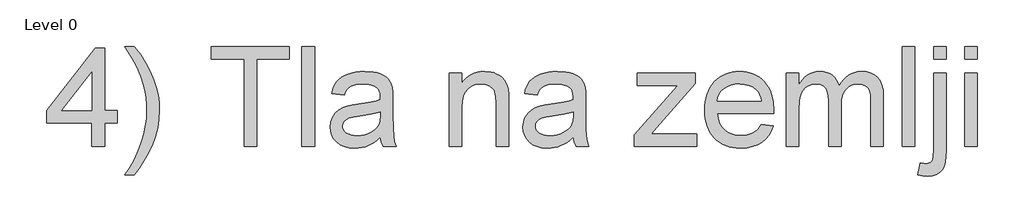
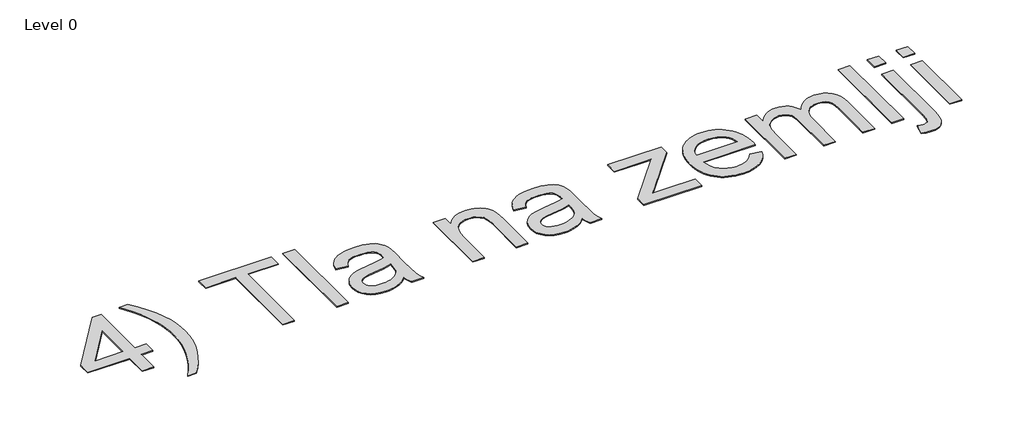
# One storey, part 4 of 11: 1 proxy.
"""IFC4 building model written with IfcOpenShell, lengths in millimetres."""

from ifc_helpers import new_model, si_unit, origin, origin_with_axes, place, context, project, spatial, polyline, outline, extrude, element, save

model = new_model("IFC4")

# Units and contexts
model_context = context("Model", 3, world=origin())
ifc_project = project(units=[si_unit("LENGTHUNIT", "METRE", prefix="MILLI")], contexts=[model_context])

# Site, building, storey
site = spatial("IfcSite", under=ifc_project)
building = spatial("IfcBuilding", under=site)
storey = spatial("IfcBuildingStorey", under=building, Name="Level 0", Elevation=0.0)

# Proxy
placement = place(None, origin())
element("IfcBuildingElementProxy", 1, Name="1000mm Arial", ObjectType="1000mm Arial", at=placement, inside=storey, context=model_context, shape_type="SweptSolid", body=[
    extrude(outline(polyline([(-8744.4502126, -30418.9210026), (-8744.4502126, -30183.4765257), (-9199.642868, -30183.4765257), (-9199.642868, -30057.906138), (-8713.0576157, -29430.0541996), (-8618.8798249, -29430.0541996), (-8618.8798249, -30057.906138), (-8493.3094373, -30057.906138), (-8493.3094373, -30183.4765257), (-8618.8798249, -30183.4765257), (-8618.8798249, -30418.9210026), (-8744.4502126, -30418.9210026)]), holes=[polyline([(-8744.4502126, -30057.906138), (-8744.4502126, -29669.9132604), (-9045.13243, -30057.906138), (-8744.4502126, -30057.906138)])]), origin_with_axes(), (0.0, 0.0, 1.0), 10.0),
    extrude(outline(polyline([(-8320.6501542, -30701.4543749), (-8414.827945, -30701.4543749), (-8363.3244656, -30621.0644947), (-8318.6881169, -30540.6592862), (-8280.9188987, -30460.2387492), (-8250.0168111, -30379.8028838), (-8225.9818541, -30299.35169), (-8208.8140277, -30218.8851677), (-8198.5133318, -30138.4033171), (-8195.0797665, -30057.906138), (-8197.0571322, -29995.1209442), (-8202.9892294, -29932.581005), (-8212.876058, -29870.2863205), (-8226.7176181, -29808.2368906), (-8256.7000007, -29709.7058296), (-8296.6151972, -29615.2214705), (-8340.3931546, -29534.8392545), (-8414.827945, -29414.3579011), (-8320.6501542, -29414.3579011), (-8258.5087538, -29498.4495938), (-8205.0125804, -29582.7252276), (-8160.1616338, -29667.1848023), (-8123.9559141, -29751.828318), (-8100.1355549, -29825.6346433), (-8083.1210126, -29901.1270944), (-8072.9122873, -29978.3056713), (-8069.5093788, -30057.170374), (-8074.0849111, -30146.902924), (-8087.8115081, -30235.1026323), (-8110.6891696, -30321.769499), (-8142.7178959, -30406.9035241), (-8181.2918559, -30488.5886554), (-8223.805219, -30564.908841), (-8270.2579851, -30635.8640808), (-8320.6501542, -30701.4543749)])), origin_with_axes(), (0.0, 0.0, 1.0), 10.0),
    extrude(outline(polyline([(-7221.9092619, -30418.9210026), (-7221.9092619, -29539.9282888), (-7551.5315296, -29539.9282888), (-7551.5315296, -29414.3579011), (-6766.7166066, -29414.3579011), (-6766.7166066, -29539.9282888), (-7096.3388742, -29539.9282888), (-7096.3388742, -30418.9210026), (-7221.9092619, -30418.9210026)])), origin_with_axes(), (0.0, 0.0, 1.0), 10.0),
    extrude(outline(polyline([(-6641.1462189, -30418.9210026), (-6641.1462189, -29414.3579011), (-6515.5758312, -29414.3579011), (-6515.5758312, -30418.9210026), (-6641.1462189, -30418.9210026)])), origin_with_axes(), (0.0, 0.0, 1.0), 10.0),
    extrude(outline(polyline([(-5856.3312958, -30324.7432118), (-5886.1067448, -30352.6869151), (-5916.3267179, -30376.1853775), (-5946.991215, -30395.2385992), (-5978.1002362, -30409.8465801), (-6010.0063351, -30420.6837705), (-6043.0620652, -30428.4246208), (-6077.2674266, -30433.069131), (-6112.6224191, -30434.6173011), (-6168.5328182, -30430.8924959), (-6217.5607583, -30419.7180803), (-6259.7062393, -30401.0940543), (-6294.9692614, -30375.0204178), (-6322.8133299, -30343.15264), (-6342.7019503, -30307.1461897), (-6354.6351225, -30267.001067), (-6358.6128466, -30222.7172718), (-6352.6041073, -30170.6619695), (-6345.0931833, -30146.4277431), (-6334.5778896, -30123.3891331), (-6306.7721421, -30082.9221137), (-6271.4248137, -30051.2842621), (-6229.8848051, -30027.3719324), (-6183.5010169, -30010.0814786), (-6138.3128451, -30000.4552331), (-6074.853201, -29991.1968695), (-5946.4623846, -29971.3312418), (-5896.8902858, -29960.110841), (-5857.0670598, -29948.0320488), (-5856.3312958, -29920.0730171), (-5858.4926025, -29889.630782), (-5864.9765227, -29864.0323265), (-5875.7830563, -29843.2776506), (-5890.9122034, -29827.3667544), (-5917.0624819, -29811.4865149), (-5948.9149313, -29800.1434867), (-5986.4695516, -29793.3376698), (-6029.7263429, -29791.0690642), (-6069.9481077, -29792.5789132), (-6104.5290152, -29797.1084603), (-6133.4690655, -29804.6577054), (-6156.7682586, -29815.2266485), (-6175.9134507, -29829.6430242), (-6192.3914984, -29848.7345669), (-6206.2024017, -29872.5012766), (-6217.3461604, -29900.9431534), (-6342.9165481, -29885.2468549), (-6333.3592804, -29849.0717921), (-6321.1195399, -29816.5755492), (-6306.1973265, -29787.7581262), (-6288.5926402, -29762.6195232), (-6267.5467244, -29740.6539024), (-6242.3008224, -29721.3554261), (-6212.8549344, -29704.7240942), (-6179.2090603, -29690.7599068), (-6142.0453145, -29679.7081185), (-6102.0458118, -29671.8139841), (-6059.210552, -29667.0775034), (-6013.5395351, -29665.4986765), (-5928.6507647, -29671.0782201), (-5892.8052628, -29678.0526496), (-5861.3590164, -29687.8168509), (-5810.6219579, -29712.9861107), (-5791.0705627, -29727.7090547), (-5775.3972569, -29743.8575415), (-5752.0367502, -29782.0252985), (-5736.8922747, -29829.083537), (-5732.2937498, -29872.4936124), (-5730.7609081, -29938.9576262), (-5730.7609081, -30095.1848468), (-5729.1667528, -30231.2705282), (-5724.3842869, -30313.33887), (-5714.9419823, -30367.2642391), (-5699.3683112, -30418.9210026), (-5824.9386989, -30418.9210026), (-5845.0495813, -30375.2656725), (-5856.3312958, -30324.7432118)]), holes=[polyline([(-5856.3312958, -30073.6024365), (-5940.6989001, -30094.5103965), (-6058.9116478, -30112.1074186), (-6124.0574178, -30121.7336642), (-6166.9463271, -30132.4635557), (-6195.0586429, -30146.3817578), (-6215.8746324, -30165.5729353), (-6228.7505023, -30188.56556), (-6233.0424589, -30213.888104), (-6230.7048754, -30233.4011781), (-6223.6921248, -30251.2281265), (-6212.0042073, -30267.368949), (-6195.6411227, -30281.8236457), (-6174.7561553, -30293.7338253), (-6149.5025892, -30302.2410965), (-6119.8804243, -30307.3454591), (-6085.8896608, -30309.0469134), (-6051.1861259, -30307.1691824), (-6018.4446284, -30301.5359893), (-5987.6651681, -30292.1473342), (-5958.8477452, -30279.0032171), (-5932.8507508, -30263.1919555), (-5910.5325765, -30245.801867), (-5891.893222, -30226.8329517), (-5876.9326876, -30206.2852094), (-5868.2414754, -30187.8911096), (-5862.0334668, -30165.5729353), (-5857.0670598, -30109.1643627), (-5856.3312958, -30073.6024365)])]), origin_with_axes(), (0.0, 0.0, 1.0), 10.0),
    extrude(outline(polyline([(-5165.6941635, -30418.9210026), (-5165.6941635, -29681.1949749), (-5040.1237759, -29681.1949749), (-5040.1237759, -29784.2019336), (-5019.407421, -29756.3808577), (-4996.4991026, -29732.2692586), (-4971.3988206, -29711.8671363), (-4944.1065751, -29695.1744908), (-4914.622366, -29682.191322), (-4882.9461934, -29672.91763), (-4849.0780572, -29667.3534149), (-4813.0179575, -29665.4986765), (-4751.1218118, -29671.4767589), (-4722.1281121, -29678.9493619), (-4694.4373277, -29689.4110062), (-4669.0994553, -29702.3022044), (-4647.1644913, -29717.0634695), (-4628.6324358, -29733.6948013), (-4613.5032888, -29752.1962), (-4590.6639483, -29794.7172273), (-4575.8566979, -29844.5345808), (-4570.890291, -29892.1752992), (-4569.234822, -29965.9356392), (-4569.234822, -30418.9210026), (-4694.8052097, -30418.9210026), (-4694.8052097, -29982.858211), (-4698.422716, -29917.9270388), (-4709.2752349, -29871.7578484), (-4717.8974691, -29854.2911179), (-4729.2941468, -29838.6791257), (-4743.4652678, -29824.9218719), (-4760.4108322, -29813.0193565), (-4800.2953718, -29796.5566373), (-4846.6178464, -29791.0690642), (-4884.7472824, -29794.1500759), (-4920.1635886, -29803.393111), (-4952.8667651, -29818.7981696), (-4982.8568119, -29840.3652515), (-5007.9111087, -29870.5469035), (-5025.8070349, -29911.7956723), (-5036.5445906, -29964.1115576), (-5040.1237759, -30027.4945597), (-5040.1237759, -30418.9210026), (-5165.6941635, -30418.9210026)])), origin_with_axes(), (0.0, 0.0, 1.0), 10.0),
    extrude(outline(polyline([(-3925.6865851, -30324.7432118), (-3955.4620341, -30352.6869151), (-3985.6820072, -30376.1853775), (-4016.3465043, -30395.2385992), (-4047.4555255, -30409.8465801), (-4079.3616244, -30420.6837705), (-4112.4173545, -30428.4246208), (-4146.6227159, -30433.069131), (-4181.9777084, -30434.6173011), (-4237.8881075, -30430.8924959), (-4286.9160476, -30419.7180803), (-4329.0615286, -30401.0940543), (-4364.3245507, -30375.0204178), (-4392.1686192, -30343.15264), (-4412.0572396, -30307.1461897), (-4423.9904118, -30267.001067), (-4427.9681359, -30222.7172718), (-4421.9593966, -30170.6619695), (-4414.4484726, -30146.4277431), (-4403.9331789, -30123.3891331), (-4376.1274314, -30082.9221137), (-4340.780103, -30051.2842621), (-4299.2400944, -30027.3719324), (-4252.8563062, -30010.0814786), (-4207.6681344, -30000.4552331), (-4144.2084903, -29991.1968695), (-4015.817674, -29971.3312418), (-3966.2455751, -29960.110841), (-3926.4223491, -29948.0320488), (-3925.6865851, -29920.0730171), (-3927.8478919, -29889.630782), (-3934.331812, -29864.0323265), (-3945.1383456, -29843.2776506), (-3960.2674927, -29827.3667544), (-3986.4177712, -29811.4865149), (-4018.2702206, -29800.1434867), (-4055.8248409, -29793.3376698), (-4099.0816322, -29791.0690642), (-4139.303397, -29792.5789132), (-4173.8843046, -29797.1084603), (-4202.8243548, -29804.6577054), (-4226.1235479, -29815.2266485), (-4245.26874, -29829.6430242), (-4261.7467877, -29848.7345669), (-4275.557691, -29872.5012766), (-4286.7014497, -29900.9431534), (-4412.2718374, -29885.2468549), (-4402.7145698, -29849.0717921), (-4390.4748292, -29816.5755492), (-4375.5526158, -29787.7581262), (-4357.9479295, -29762.6195232), (-4336.9020137, -29740.6539024), (-4311.6561117, -29721.3554261), (-4282.2102237, -29704.7240942), (-4248.5643496, -29690.7599068), (-4211.4006039, -29679.7081185), (-4171.4011011, -29671.8139841), (-4128.5658413, -29667.0775034), (-4082.8948244, -29665.4986765), (-3998.006054, -29671.0782201), (-3962.1605521, -29678.0526496), (-3930.7143057, -29687.8168509), (-3879.9772472, -29712.9861107), (-3860.425852, -29727.7090547), (-3844.7525462, -29743.8575415), (-3821.3920395, -29782.0252985), (-3806.247564, -29829.083537), (-3801.6490391, -29872.4936124), (-3800.1161975, -29938.9576262), (-3800.1161975, -30095.1848468), (-3798.5220421, -30231.2705282), (-3793.7395762, -30313.33887), (-3784.2972717, -30367.2642391), (-3768.7236005, -30418.9210026), (-3894.2939882, -30418.9210026), (-3914.4048706, -30375.2656725), (-3925.6865851, -30324.7432118)]), holes=[polyline([(-3925.6865851, -30073.6024365), (-4010.0541894, -30094.5103965), (-4128.2669372, -30112.1074186), (-4193.4127071, -30121.7336642), (-4236.3016164, -30132.4635557), (-4264.4139322, -30146.3817578), (-4285.2299218, -30165.5729353), (-4298.1057916, -30188.56556), (-4302.3977482, -30213.888104), (-4300.0601647, -30233.4011781), (-4293.0474142, -30251.2281265), (-4281.3594966, -30267.368949), (-4264.996412, -30281.8236457), (-4244.1114446, -30293.7338253), (-4218.8578785, -30302.2410965), (-4189.2357136, -30307.3454591), (-4155.2449501, -30309.0469134), (-4120.5414153, -30307.1691824), (-4087.7999177, -30301.5359893), (-4057.0204574, -30292.1473342), (-4028.2030345, -30279.0032171), (-4002.2060401, -30263.1919555), (-3979.8878658, -30245.801867), (-3961.2485113, -30226.8329517), (-3946.2879769, -30206.2852094), (-3937.5967647, -30187.8911096), (-3931.3887561, -30165.5729353), (-3926.4223491, -30109.1643627), (-3925.6865851, -30073.6024365)])]), origin_with_axes(), (0.0, 0.0, 1.0), 10.0),
    extrude(outline(polyline([(-3313.5309452, -30418.9210026), (-3313.5309452, -30300.7082548), (-2880.1659548, -29806.7653626), (-3008.4341438, -29806.7653626), (-3282.1383482, -29806.7653626), (-3282.1383482, -29681.1949749), (-2701.3753052, -29681.1949749), (-2701.3753052, -29787.8807535), (-3085.6893628, -30226.1508371), (-3144.550482, -30293.3506149), (-2999.3597213, -30293.3506149), (-2685.6790067, -30293.3506149), (-2685.6790067, -30418.9210026), (-3313.5309452, -30418.9210026)])), origin_with_axes(), (0.0, 0.0, 1.0), 10.0),
    extrude(outline(polyline([(-2043.6022978, -30199.1728241), (-1920.4844568, -30214.8691226), (-1939.3614016, -30264.1806384), (-1964.844894, -30307.6366991), (-1996.9349339, -30345.2373047), (-2035.6315213, -30376.9824552), (-2080.5361173, -30402.1977002), (-2131.2501832, -30420.2085896), (-2187.7737189, -30431.0151232), (-2250.1067244, -30434.6173011), (-2290.1253877, -30433.0633828), (-2328.0210653, -30428.4016282), (-2363.7937573, -30420.6320371), (-2397.4434635, -30409.7546096), (-2428.9701841, -30395.7693456), (-2458.373919, -30378.6762452), (-2485.6546682, -30358.4753083), (-2510.8124317, -30335.166535), (-2533.4026855, -30309.0526615), (-2552.9809054, -30280.436424), (-2569.5470915, -30249.3178226), (-2583.1012437, -30215.6968571), (-2593.6433622, -30179.5735276), (-2601.1734468, -30140.9478342), (-2605.6914975, -30099.8197768), (-2607.1975144, -30056.1893554), (-2605.6761691, -30011.0739936), (-2601.1121331, -29968.5567984), (-2593.5054064, -29928.6377698), (-2582.8559891, -29891.3169079), (-2569.1638811, -29856.5942125), (-2552.4290824, -29824.4696836), (-2532.651593, -29794.9433214), (-2509.831413, -29768.0151258), (-2484.5855111, -29743.987833), (-2457.5308561, -29723.1641792), (-2428.6674479, -29705.5441645), (-2397.9952865, -29691.1277888), (-2365.514372, -29679.9150522), (-2331.2247044, -29671.9059546), (-2295.1262836, -29667.100496), (-2257.2191097, -29665.4986765), (-2220.5516214, -29667.0966639), (-2185.5970837, -29671.8906261), (-2152.3554966, -29679.8805632), (-2120.82686, -29691.0664751), (-2091.0111739, -29705.4483619), (-2062.9084384, -29723.0262235), (-2036.5186534, -29743.8000599), (-2011.8418189, -29767.7698711), (-1989.5102322, -29794.6367531), (-1970.1561903, -29824.1018017), (-1953.7796934, -29856.1650168), (-1940.3807413, -29890.8263985), (-1929.9593342, -29928.0859468), (-1922.5154719, -29967.9436618), (-1916.5603821, -30055.4535914), (-1917.2961461, -30089.2987349), (-2481.6271267, -30089.2987349), (-2474.3537931, -30139.4073283), (-2459.8914322, -30183.2925847), (-2438.2400439, -30220.9545039), (-2409.3996284, -30252.3930861), (-2374.9643408, -30277.1791355), (-2336.5283365, -30294.8834566), (-2294.0916155, -30305.5060492), (-2247.6541778, -30309.0469134), (-2212.9199861, -30307.4067728), (-2180.822282, -30302.4863511), (-2151.3610656, -30294.2856483), (-2124.5363368, -30282.8046644), (-2100.3480956, -30267.736831), (-2078.796342, -30248.7755798), (-2059.8810761, -30225.9209109), (-2043.6022978, -30199.1728241)]), holes=[polyline([(-2481.6271267, -29963.7283472), (-2042.1307698, -29963.7283472), (-2048.5840332, -29928.1970779), (-2059.1146553, -29897.3869608), (-2073.7226362, -29871.2979959), (-2092.4079758, -29849.9301834), (-2126.6516582, -29824.1784437), (-2165.6164929, -29805.784344), (-2209.3024798, -29794.7478841), (-2257.709619, -29791.0690642), (-2301.8631226, -29794.0044559), (-2342.3531347, -29802.8106312), (-2379.1796553, -29817.4875899), (-2412.3426843, -29838.0353322), (-2440.1714244, -29863.5034962), (-2460.9950782, -29892.94172), (-2474.8136456, -29926.3500037), (-2481.6271267, -29963.7283472)])]), origin_with_axes(), (0.0, 0.0, 1.0), 10.0),
    extrude(outline(polyline([(-1790.9899945, -30418.9210026), (-1790.9899945, -29681.1949749), (-1665.4196068, -29681.1949749), (-1665.4196068, -29802.5960333), (-1647.8838983, -29773.2037948), (-1627.6503886, -29746.8312542), (-1604.7190776, -29723.4784118), (-1579.0899652, -29703.1452673), (-1551.1769189, -29686.6748838), (-1521.3938057, -29674.9103242), (-1489.7406257, -29667.8515884), (-1456.2173789, -29665.4986765), (-1419.5671351, -29667.8975737), (-1386.3811134, -29675.0942652), (-1356.6593139, -29687.0887511), (-1330.4017365, -29703.8810313), (-1307.6850233, -29724.995925), (-1288.5858164, -29749.9582512), (-1273.1041158, -29778.76801), (-1261.2399214, -29811.4252012), (-1239.1593375, -29777.223672), (-1215.4692698, -29747.5823467), (-1190.1697185, -29722.5012252), (-1163.2606834, -29701.9803077), (-1134.7421645, -29686.019594), (-1104.614162, -29674.6190843), (-1072.8766757, -29667.7787784), (-1039.5297056, -29665.4986765), (-989.2601638, -29669.2924596), (-945.1373171, -29680.6738088), (-907.1611653, -29699.6427242), (-875.3317085, -29726.1992057), (-850.1701128, -29760.6498217), (-832.1975445, -29803.3011405), (-821.4140035, -29854.1531621), (-817.8194899, -29913.2058866), (-817.8194899, -30418.9210026), (-943.3898776, -30418.9210026), (-943.3898776, -29967.1619125), (-946.3022767, -29904.5300028), (-955.0394741, -29862.3155439), (-971.4102229, -29833.4061504), (-997.2232762, -29810.6894372), (-1030.4246263, -29795.9741574), (-1068.9602653, -29791.0690642), (-1104.5451841, -29794.2113895), (-1136.9877775, -29803.6383657), (-1166.2880456, -29819.3499925), (-1192.4459883, -29841.3462702), (-1213.9594208, -29870.270992), (-1229.3261583, -29906.7679516), (-1238.5462008, -29950.837149), (-1241.6195483, -30002.4785841), (-1241.6195483, -30418.9210026), (-1367.189936, -30418.9210026), (-1367.189936, -29953.1823967), (-1369.0063534, -29915.137267), (-1374.4556054, -29882.1811716), (-1383.5376922, -29854.3141105), (-1396.2526136, -29831.5360836), (-1413.1062075, -29813.8317626), (-1434.6043116, -29801.185819), (-1460.7469259, -29793.5982529), (-1491.5340504, -29791.0690642), (-1516.1974725, -29792.75519), (-1539.9105328, -29797.8135674), (-1562.6732312, -29806.2441965), (-1584.4855678, -29818.0470771), (-1604.3511956, -29833.0995821), (-1621.2737674, -29851.279084), (-1635.2532832, -29872.5855829), (-1646.289743, -29897.0190788), (-1654.6590584, -29925.882487), (-1660.6371408, -29960.4787229), (-1665.4196068, -30046.8696781), (-1665.4196068, -30418.9210026), (-1790.9899945, -30418.9210026)])), origin_with_axes(), (0.0, 0.0, 1.0), 10.0),
    extrude(outline(polyline([(-629.4639084, -30418.9210026), (-629.4639084, -29414.3579011), (-503.8935207, -29414.3579011), (-503.8935207, -30418.9210026), (-629.4639084, -30418.9210026)])), origin_with_axes(), (0.0, 0.0, 1.0), 10.0),
    extrude(outline(polyline([(-315.5379391, -29539.9282888), (-315.5379391, -29414.3579011), (-189.9675515, -29414.3579011), (-189.9675515, -29539.9282888), (-315.5379391, -29539.9282888)])), origin_with_axes(), (0.0, 0.0, 1.0), 10.0),
    extrude(outline(polyline([(-473.7271971, -30701.9448842), (-447.2396934, -30582.5058631), (-414.5595095, -30589.31168), (-389.6048475, -30591.5802857), (-372.0461464, -30590.0244514), (-356.8940068, -30585.3569486), (-344.1484285, -30577.5777772), (-333.8094116, -30566.6869373), (-325.8156424, -30549.5727603), (-320.1058072, -30523.1235777), (-315.5379391, -30442.2201956), (-315.5379391, -29681.1949749), (-189.9675515, -29681.1949749), (-189.9675515, -30458.4070034), (-192.1901718, -30521.1921973), (-198.858033, -30573.6766952), (-209.9711349, -30615.8604974), (-225.5294777, -30647.7436036), (-251.8330403, -30678.1091966), (-285.6168702, -30699.7989059), (-326.8809673, -30712.8127315), (-375.6253317, -30717.1506734), (-425.5346557, -30713.3492261), (-473.7271971, -30701.9448842)])), origin_with_axes(), (0.0, 0.0, 1.0), 10.0),
    extrude(outline(polyline([(-1.6119699, -29539.9282888), (-1.6119699, -29414.3579011), (123.9584178, -29414.3579011), (123.9584178, -29539.9282888), (-1.6119699, -29539.9282888)])), origin_with_axes(), (0.0, 0.0, 1.0), 10.0),
    extrude(outline(polyline([(-1.6119699, -30418.9210026), (-1.6119699, -29681.1949749), (123.9584178, -29681.1949749), (123.9584178, -30418.9210026), (-1.6119699, -30418.9210026)])), origin_with_axes(), (0.0, 0.0, 1.0), 10.0),
])

save(model, "model.ifc")
